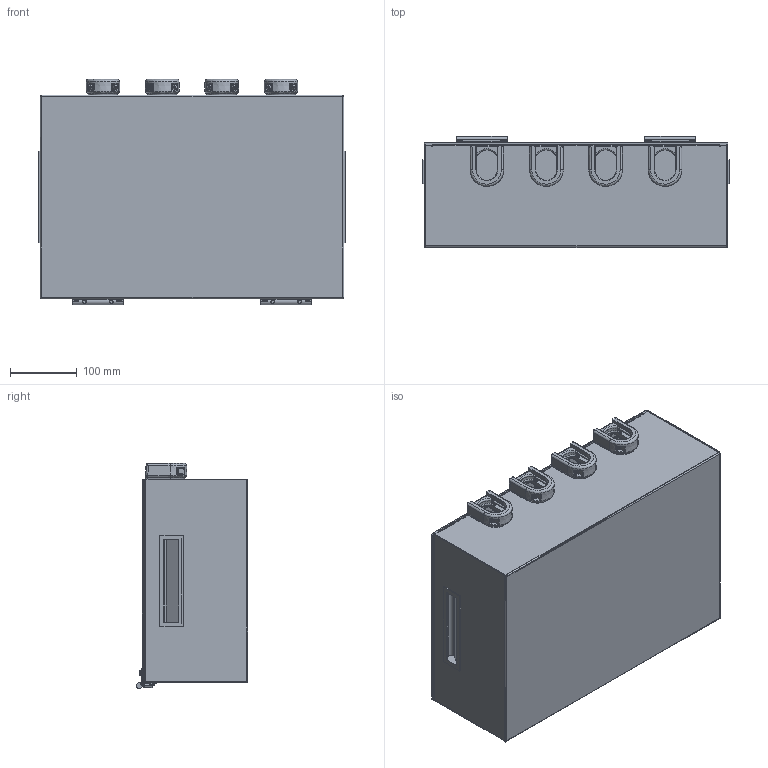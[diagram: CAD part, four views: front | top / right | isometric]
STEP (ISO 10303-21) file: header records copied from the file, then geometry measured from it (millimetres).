
FILE_DESCRIPTION (( 'STEP AP203' ), '1' );
FILE_NAME ('410114014.STEP', '2017-08-31T12:46:20', ( 'VPC Computer Systems' ), ( 'Virginia Panel Corporation' ), 'SwSTEP 2.0', 'SolidWorks 2017', '' );
FILE_SCHEMA (( 'CONFIG_CONTROL_DESIGN' ));
Products named in the file (1): 410114014
Bounding box: 458.22 x 166.47 x 337.24 mm (x, y, z)
Volume: 1116780 mm3; surface area: 1048237.3 mm2
Topology: 1 solids, 9 shells, 2148 faces, 5407 edges, 3410 vertices
Faces by surface type: plane 1102, cylinder 568, bspline 294, cone 168, torus 16
Entity records: 72826 total; most frequent: CARTESIAN_POINT 22692, ORIENTED_EDGE 10798, DIRECTION 10011, EDGE_CURVE 5399, AXIS2_PLACEMENT_3D 3453, VERTEX_POINT 3410, LINE 3105, VECTOR 3105
